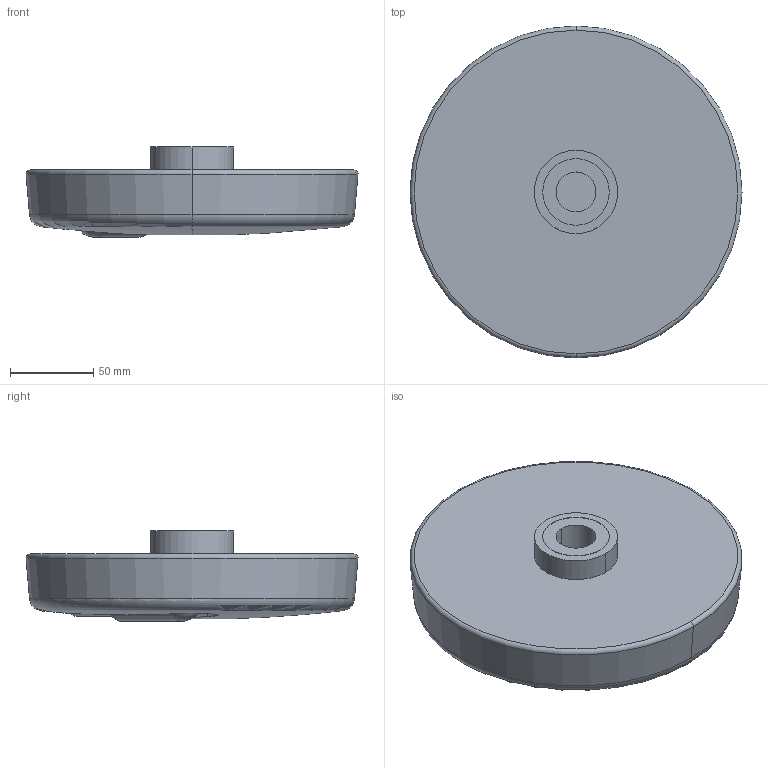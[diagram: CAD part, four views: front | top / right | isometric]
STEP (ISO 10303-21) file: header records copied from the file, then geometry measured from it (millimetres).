
FILE_DESCRIPTION (( 'STEP AP214' ), '1' );
FILE_NAME ('521.3-200-B24-R.step', '2020-09-08T05:31:42', ( '' ), ( '' ), 'SwSTEP 2.0', 'SolidWorks 2019', '' );
FILE_SCHEMA (( 'AUTOMOTIVE_DESIGN' ));
Length unit declared in the file: millimetre
Products named in the file (3): 521.3-200-B24-R; WB521.3_Griff^WB521.3_25; WB521.3^WB521.3_200-B24-R
Assembly tree (2 placements, depth 2):
  521.3-200-B24-R
    WB521.3^WB521.3_200-B24-R
    WB521.3_Griff^WB521.3_25
Bounding box: 199.53 x 199.53 x 54.5 mm (x, y, z)
Volume: 1061259.5 mm3; surface area: 100840.3 mm2
Topology: 2 solids, 2 shells, 90 faces, 220 edges, 138 vertices
Faces by surface type: cylinder 35, plane 30, torus 10, cone 10, sphere 5
Entity records: 3077 total; most frequent: CARTESIAN_POINT 664, DIRECTION 502, ORIENTED_EDGE 436, EDGE_CURVE 218, AXIS2_PLACEMENT_3D 209, VERTEX_POINT 138, CIRCLE 114, EDGE_LOOP 98
